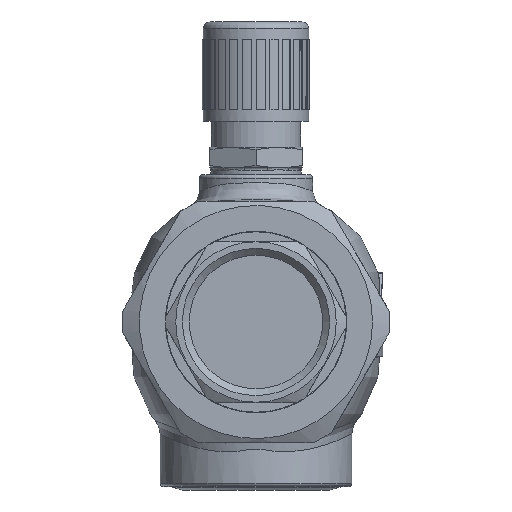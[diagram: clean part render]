
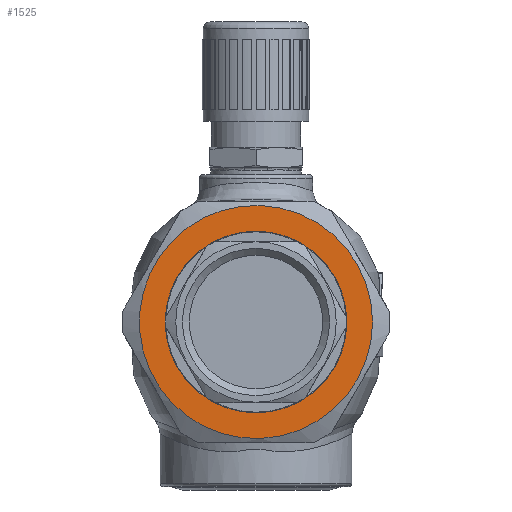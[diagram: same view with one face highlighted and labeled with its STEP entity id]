
A CAD part, left-side view. The second image highlights one B-rep face of the part: STEP entity #1525.
In plain terms, the highlighted planar face has unit normal (-1, 0, 0).
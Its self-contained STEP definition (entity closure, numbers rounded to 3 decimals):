
#784=PLANE('',#4952);
#1010=CIRCLE('',#4950,26.5);
#1011=CIRCLE('',#4951,34.);
#1525=ADVANCED_FACE('',(#1806,#1807),#784,.T.);
#1806=FACE_BOUND('',#2069,.T.);
#1807=FACE_BOUND('',#2070,.T.);
#2069=EDGE_LOOP('',(#2738));
#2070=EDGE_LOOP('',(#2739));
#2738=ORIENTED_EDGE('',*,*,#4247,.T.);
#2739=ORIENTED_EDGE('',*,*,#4248,.T.);
#3749=VERTEX_POINT('',#13132);
#3750=VERTEX_POINT('',#13134);
#4247=EDGE_CURVE('',#3749,#3749,#1010,.T.);
#4248=EDGE_CURVE('',#3750,#3750,#1011,.T.);
#4950=AXIS2_PLACEMENT_3D('',#13131,#5700,#5701);
#4951=AXIS2_PLACEMENT_3D('',#13133,#5702,#5703);
#4952=AXIS2_PLACEMENT_3D('',#13135,#5704,#5705);
#5700=DIRECTION('',(1.,0.,0.));
#5701=DIRECTION('',(0.,1.,0.));
#5702=DIRECTION('',(-1.,0.,0.));
#5703=DIRECTION('',(0.,-1.,0.));
#5704=DIRECTION('',(-1.,0.,0.));
#5705=DIRECTION('',(0.,-1.,0.));
#13131=CARTESIAN_POINT('',(23.,0.,100.));
#13132=CARTESIAN_POINT('',(23.,26.5,100.));
#13133=CARTESIAN_POINT('',(23.,0.,100.));
#13134=CARTESIAN_POINT('',(23.,-34.,100.));
#13135=CARTESIAN_POINT('',(23.,0.,100.));
